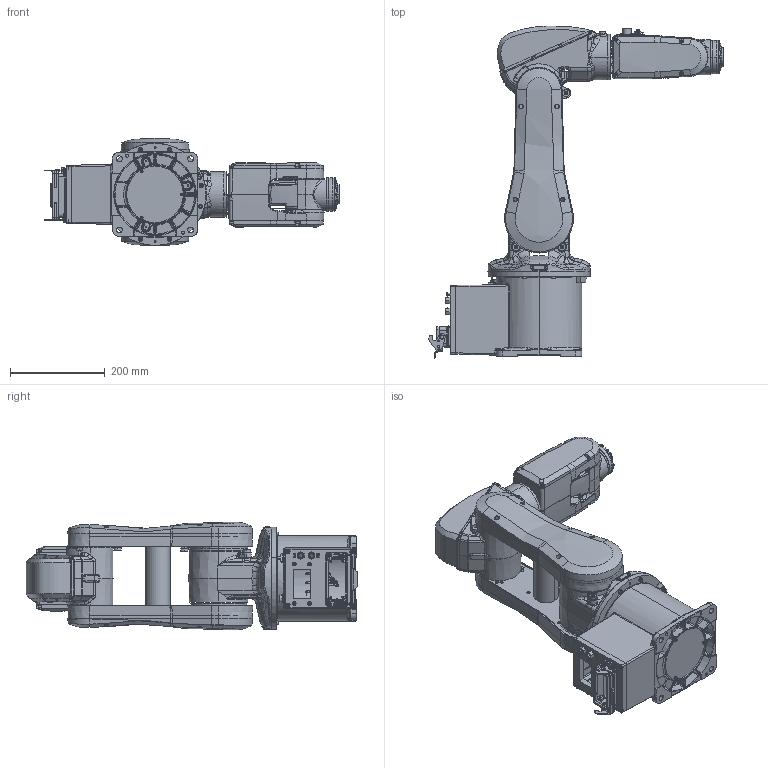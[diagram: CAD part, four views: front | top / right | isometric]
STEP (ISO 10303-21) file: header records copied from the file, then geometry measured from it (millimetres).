
FILE_DESCRIPTION (( 'STEP AP203' ), '1' );
FILE_NAME ('TKB030.STEP', '2016-09-07T08:57:42', ( '' ), ( '' ), 'SwSTEP 2.0', 'SolidWorks 2015', '' );
FILE_SCHEMA (( 'CONFIG_CONTROL_DESIGN' ));
Products named in the file (1): TKB030
Bounding box: 620.23 x 699.24 x 227 mm (x, y, z)
Surface area: 1015108.6 mm2 (no closed solid volume)
Topology: 0 solids, 227 shells, 2647 faces, 9168 edges, 6413 vertices
Faces by surface type: bspline 737, cylinder 718, plane 697, cone 274, torus 174, sphere 47
Entity records: 140899 total; most frequent: CARTESIAN_POINT 70394, ORIENTED_EDGE 14090, DIRECTION 13137, EDGE_CURVE 9134, VERTEX_POINT 6413, AXIS2_PLACEMENT_3D 5061, CIRCLE 3150, EDGE_LOOP 3038
